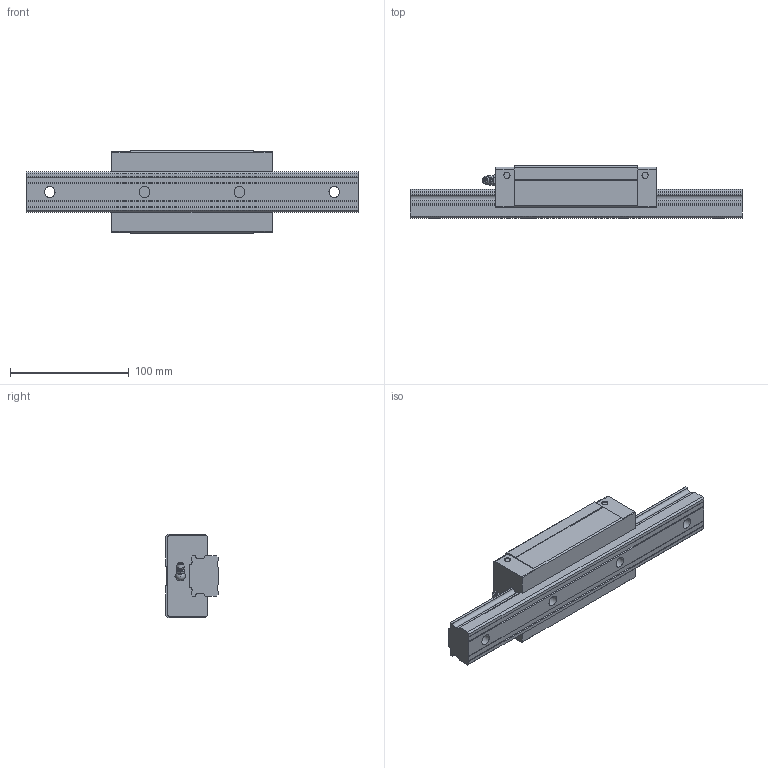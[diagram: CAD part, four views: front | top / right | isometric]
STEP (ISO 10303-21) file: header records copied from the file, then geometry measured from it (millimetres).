
FILE_DESCRIPTION(/* description */ ('STEP AP203'),/* implementation_level */ '2;1');
FILE_NAME(/* name */ 'SVS35LR1SS-280L_G20_0_B-M6F_72-5_0_0_0_1',/* time_stamp */ '2024-05-16T11:57:12+02:00',/* author */ ('License CC BY-ND 4.0'),/* organization */ ('CADENAS'),/* preprocessor_version */ 'ST-DEVELOPER v19.3',/* originating_system */ 'PARTsolutions',/* authorisation */ ' ');
FILE_SCHEMA (('CONFIG_CONTROL_DESIGN'));
Length unit declared in the file: millimetre
Products named in the file (4): SVS35LR1SS-280L_G20_0_B-M6F_72-5_0_0_0_1; SVR 35LR28020 R Track; SVR 35LR1SSB-M6F1 Slide; B-M6F_grease_nipple_joint1_SVR
Assembly tree (3 placements, depth 2):
  SVS35LR1SS-280L_G20_0_B-M6F_72-5_0_0_0_1
    SVR 35LR28020 R Track
    SVR 35LR1SSB-M6F1 Slide
    B-M6F_grease_nipple_joint1_SVR
Bounding box: 280 x 44 x 70 mm (x, y, z)
Volume: 460853.8 mm3; surface area: 76786.1 mm2
Topology: 3 solids, 3 shells, 188 faces, 500 edges, 327 vertices
Faces by surface type: plane 100, cylinder 58, cone 25, sphere 3, torus 2
Full cylindrical faces by diameter (mm): 4.917 x2, 5.2 x4, 6 x1, 6.647 x6, 8 x1, 9 x4, 14 x4
Entity records: 5609 total; most frequent: CARTESIAN_POINT 1037, DIRECTION 936, ORIENTED_EDGE 864, EDGE_CURVE 432, AXIS2_PLACEMENT_3D 336, VERTEX_POINT 313, LINE 264, VECTOR 264
